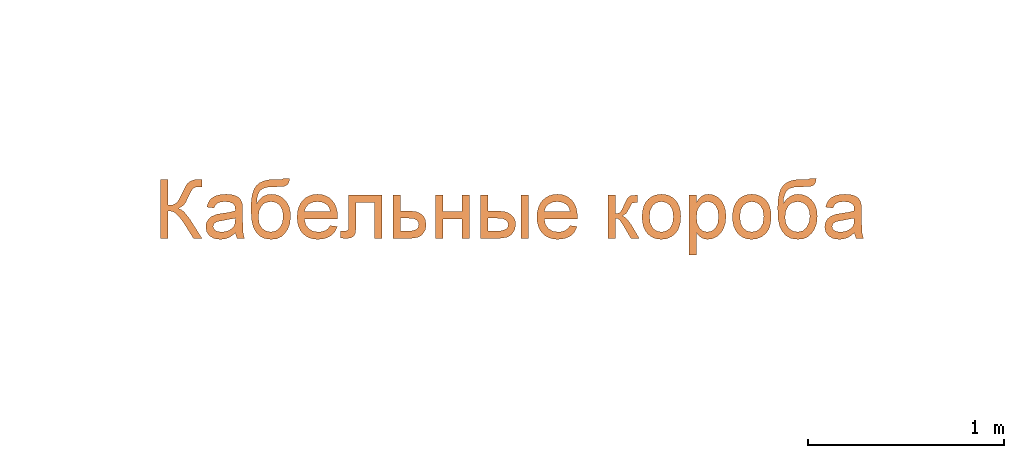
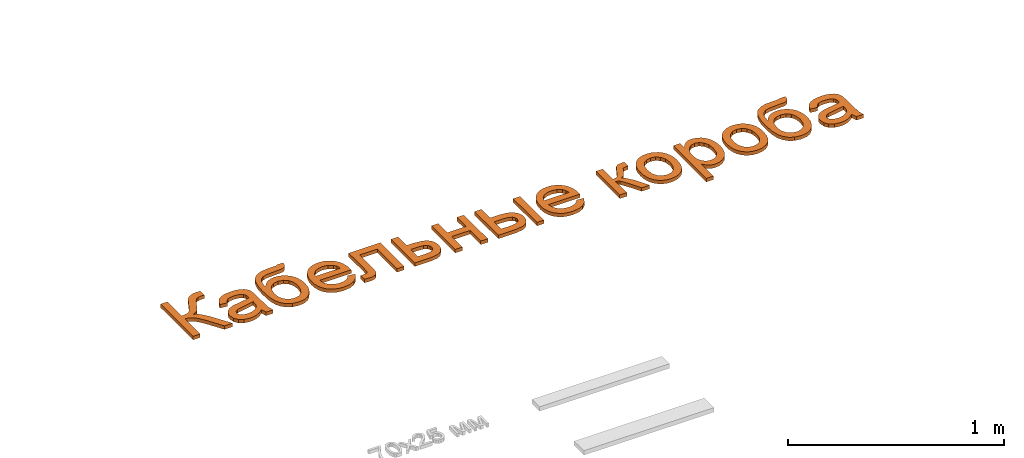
# One storey, part 26 of 87: 1 proxy.
"""IFC2X3 building model written with IfcOpenShell, lengths in millimetres."""

from ifc_helpers import new_model, entity, si_unit, converted_unit, derived_unit, direction, frame, frame_2d, origin, place, context, subcontext, project, spatial, polyline, rectangle, outline, extrude, element, save


model = new_model("IFC2X3")

# Units and contexts
model_context = context("Model", 3, precision=0.01, world=origin(), true_north=direction((6.12303176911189e-17, 1.0)))
body_context = subcontext(model_context, "Body", "Model", "MODEL_VIEW")
ifc_project = project(units=[si_unit("LENGTHUNIT", "METRE", prefix="MILLI"), si_unit("AREAUNIT", "SQUARE_METRE"), si_unit("VOLUMEUNIT", "CUBIC_METRE"), converted_unit("PLANEANGLEUNIT", "DEGREE", entity("IfcRatioMeasure", 0.0174532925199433), si_unit("PLANEANGLEUNIT", "RADIAN"), dimensions=[0, 0, 0, 0, 0, 0, 0]), si_unit("MASSUNIT", "GRAM", prefix="KILO"), derived_unit("MASSDENSITYUNIT", [(si_unit("MASSUNIT", "GRAM", prefix="KILO"), 1), (si_unit("LENGTHUNIT", "METRE"), -3)]), si_unit("TIMEUNIT", "SECOND"), si_unit("FREQUENCYUNIT", "HERTZ"), si_unit("THERMODYNAMICTEMPERATUREUNIT", "DEGREE_CELSIUS"), derived_unit("THERMALTRANSMITTANCEUNIT", [(si_unit("MASSUNIT", "GRAM", prefix="KILO"), 1), (si_unit("THERMODYNAMICTEMPERATUREUNIT", "KELVIN"), -1), (si_unit("TIMEUNIT", "SECOND"), -3)]), derived_unit("VOLUMETRICFLOWRATEUNIT", [(si_unit("LENGTHUNIT", "METRE"), 3), (si_unit("TIMEUNIT", "SECOND"), -1)]), si_unit("ELECTRICCURRENTUNIT", "AMPERE"), si_unit("ELECTRICVOLTAGEUNIT", "VOLT"), si_unit("POWERUNIT", "WATT"), si_unit("FORCEUNIT", "NEWTON", prefix="KILO"), si_unit("ILLUMINANCEUNIT", "LUX"), si_unit("LUMINOUSFLUXUNIT", "LUMEN"), si_unit("LUMINOUSINTENSITYUNIT", "CANDELA"), derived_unit("USERDEFINED", [(si_unit("MASSUNIT", "GRAM", prefix="KILO"), -1), (si_unit("LENGTHUNIT", "METRE"), -2), (si_unit("TIMEUNIT", "SECOND"), 3), (si_unit("LUMINOUSFLUXUNIT", "LUMEN"), 1)]), derived_unit("LINEARVELOCITYUNIT", [(si_unit("LENGTHUNIT", "METRE"), 1), (si_unit("TIMEUNIT", "SECOND"), -1)]), si_unit("PRESSUREUNIT", "PASCAL"), derived_unit("USERDEFINED", [(si_unit("LENGTHUNIT", "METRE"), -2), (si_unit("MASSUNIT", "GRAM", prefix="KILO"), 1), (si_unit("TIMEUNIT", "SECOND"), -2)])], contexts=[model_context])

# Site, building, storey
site_placement = place(None, origin())
site = spatial("IfcSite", under=ifc_project, at=site_placement, Name="Default", CompositionType="ELEMENT")
building_placement = place(site_placement, origin())
building = spatial("IfcBuilding", under=site, at=building_placement, Name="Наименование здания", CompositionType="ELEMENT")
storey_placement = place(building_placement, origin())
storey = spatial("IfcBuildingStorey", under=building, at=storey_placement, Name="Этаж 01", CompositionType="ELEMENT", Elevation=0.0)

# Proxy
proxy_placement = place(storey_placement, origin())
element("IfcBuildingElementProxy", 1, at=proxy_placement, inside=storey, Name="Текст модели:300 мм Arial", ObjectType="Текст модели:300 мм Arial", context=body_context, shape_type="SweptSolid", body=[
    extrude(outline(polyline([(-113.949345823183, -119.34472944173), (187.419584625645, -119.34472944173), (187.419584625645, -81.6736131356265), (46.1528984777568, -81.6736131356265), (49.1603337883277, -59.8306196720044), (58.1826397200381, -42.4206042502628), (75.2799554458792, -25.3968649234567), (102.512420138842, -4.71269974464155), (187.419584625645, 48.8509187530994), (187.419584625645, 92.5552997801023), (86.9142235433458, 29.2060202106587), (51.4136110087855, 0.52961868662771), (40.5886833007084, -13.9603333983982), (34.3806746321, -28.5514530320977), (18.7824780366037, -2.54219597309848), (2.08063545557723, 9.55192461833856), (-52.9729051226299, 36.0118371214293), (-67.2283324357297, 46.4964739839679), (-74.0157552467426, 58.6733680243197), (-76.2782295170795, 75.9270335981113), (-75.8367711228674, 92.5552997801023), (-113.507887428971, 92.5552997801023), (-113.949345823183, 67.8336297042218), (-111.834024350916, 50.221279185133), (-105.488059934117, 34.1724271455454), (-96.0426897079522, 20.6527638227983), (-84.6291508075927, 10.6279794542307), (-9.66399724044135, -26.1142348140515), (7.92995917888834, -39.5511246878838), (15.4071607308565, -56.1701938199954), (17.8995612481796, -81.6736131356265), (-113.949345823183, -81.6736131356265), (-113.949345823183, -119.34472944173)])), frame((13.1640739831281, 6085.27770170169, 0.0), z_axis=(0.0, 0.0, 1.0), x_axis=(0.0, -1.0, 0.0)), (0.0, 0.0, 1.0), 20.0),
    extrude(outline(polyline([(109.632642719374, 21.6400019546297), (139.414275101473, 21.6400019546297), (151.326928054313, 57.3779608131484), (118.904502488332, 60.2746899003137), (56.2118396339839, 79.1557794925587), (11.748793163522, 93.9767949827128), (-20.1035933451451, 102.655348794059), (-34.9333339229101, 102.809492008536), (-48.012240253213, 99.7818866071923), (-60.1401120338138, 92.6854820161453), (-72.1167489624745, 80.6332276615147), (-83.2645025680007, 63.0696262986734), (-92.9057243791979, 39.4391806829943), (-99.5047989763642, 13.650730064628), (-101.433043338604, -10.107683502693), (-98.7108160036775, -30.9664596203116), (-91.3584755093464, -48.0559978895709), (-79.0880939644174, -62.4320339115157), (-61.6117434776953, -75.1503032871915), (-45.2318456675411, -40.9014260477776), (-57.7232627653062, -28.8462633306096), (-63.8802662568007, -15.528871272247), (-64.0809432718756, 1.05752027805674), (-58.7033809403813, 22.9196814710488), (-48.4543113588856, 45.0581371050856), (-35.2038116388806, 58.9833769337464), (-22.3081321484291, 62.8863994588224), (-5.53851375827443, 60.0303874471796), (2.3489654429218, 57.1685587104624), (0.499246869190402, 29.5158477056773), (-6.02711866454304, -8.90943813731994), (-10.9597015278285, -41.6226999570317), (-7.57436753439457, -70.555090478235), (-1.92341912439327, -83.6165466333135), (6.95581170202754, -95.369239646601), (18.6997796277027, -104.984286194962), (32.944939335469, -111.632802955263), (58.4832707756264, -115.114112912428), (82.3289352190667, -107.968266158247), (102.393728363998, -90.1778125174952), (116.589445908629, -61.7253018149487), (121.426052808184, -41.3405887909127), (122.301469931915, -21.0896604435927), (118.58167424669, -0.315226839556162), (109.632642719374, 21.6400019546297)]), holes=[polyline([(38.1567250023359, 45.4653078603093), (48.2080259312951, 41.8822052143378), (63.7910324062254, 35.1173539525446), (73.9644845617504, 27.0146559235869), (82.023557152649, 13.7030805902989), (86.8892476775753, -3.1974141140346), (87.6483302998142, -22.296630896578), (83.3875791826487, -42.2043724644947), (75.4157574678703, -59.6632727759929), (65.227763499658, -70.8575601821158), (53.8589743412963, -75.9384695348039), (42.3447670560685, -75.0572356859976), (30.2227120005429, -65.5876072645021), (25.4413639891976, -48.5213358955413), (29.8969753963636, -15.8429744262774), (38.1567250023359, 45.4653078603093)])]), frame((220.041003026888, 6023.27494189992, 0.0), z_axis=(0.0, 0.0, 1.0), x_axis=(0.316227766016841, -0.948683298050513, 0.0)), (0.0, 0.0, 1.0), 20.0),
    extrude(outline(polyline([(-113.288756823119, 71.1787230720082), (-141.510608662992, 54.1482952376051), (-129.203599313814, 40.6605330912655), (-118.008509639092, 33.9996047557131), (-107.205239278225, 32.5805834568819), (-96.0736878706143, 34.8185424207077), (-21.4409333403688, 74.5705532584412), (2.32590846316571, 81.3073745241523), (20.3664318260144, 79.0028904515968), (37.1057783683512, 69.8118357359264), (53.2325508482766, 53.9993604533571), (69.4353520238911, 31.830614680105), (45.5941107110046, 42.0210394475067), (22.8699481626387, 45.8389018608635), (1.23761199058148, 43.2904471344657), (-19.3281501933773, 34.3819204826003), (-35.9150659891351, 22.1463238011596), (-48.9496088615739, 7.6018985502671), (-58.4317788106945, -9.25135527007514), (-64.3615758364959, -28.413437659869), (-66.3162260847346, -48.9739728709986), (-63.8729557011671, -70.0225851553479), (-57.0317646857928, -91.5592745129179), (-45.7926530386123, -113.584040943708), (-24.2287426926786, -142.572017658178), (-0.364421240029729, -161.879097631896), (24.2730848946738, -173.211038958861), (48.1565492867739, -178.273599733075), (72.8418448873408, -175.461895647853), (99.8848446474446, -163.171042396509), (126.701387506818, -141.800326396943), (141.636002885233, -117.223100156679), (147.228456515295, -90.1947630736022), (146.018514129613, -61.470714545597), (133.67430502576, -24.5666571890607), (105.863958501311, 27.0017063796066), (83.8410588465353, 60.0389917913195), (62.401204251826, 85.1944773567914), (41.5443947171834, 102.468163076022), (21.2706302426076, 111.860048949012), (0.612785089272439, 114.714688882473), (-21.3962664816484, 112.376636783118), (-44.7565244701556, 104.845892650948), (-69.467988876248, 92.1224564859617), (-105.8124207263, 71.1787230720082), (-113.288756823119, 71.1787230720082)]), holes=[polyline([(-14.1473376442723, -93.1127715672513), (-25.9661341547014, -65.6237820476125), (-27.7418114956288, -38.9705651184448), (-18.9448841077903, -15.4546180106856), (0.95413356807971, 2.62256204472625), (27.3354121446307, 12.1294073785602), (40.3740279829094, 11.9814229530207), (53.3112948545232, 8.56583379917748), (77.3834733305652, -6.86690530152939), (98.0536392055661, -32.9675565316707), (110.610185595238, -62.782752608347), (110.797677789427, -90.1150687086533), (100.457096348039, -113.209056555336), (81.4294218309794, -130.30926787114), (56.9314826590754, -138.593680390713), (31.1880305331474, -134.632042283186), (6.67108418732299, -119.209892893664), (-14.1473376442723, -93.1127715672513)])]), frame((459.880770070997, 6084.4612607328, 0.0), z_axis=(0.0, 0.0, -1.0), x_axis=(-0.856187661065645, -0.516664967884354, 0.0)), (0.0, 0.0, -1.0), 20.0),
    extrude(outline(polyline([(-9.29802617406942, -75.8566611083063), (-26.8306332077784, -108.704820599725), (3.56775144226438, -113.955407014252), (32.8230438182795, -108.674298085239), (59.9984289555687, -92.7832033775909), (84.1570918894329, -66.203832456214), (96.1620849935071, -46.0614577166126), (103.651308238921, -25.8387527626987), (106.624761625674, -5.53571759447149), (105.082445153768, 14.8476477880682), (99.0119671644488, 34.6660777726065), (88.4009359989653, 53.2743067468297), (73.2493516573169, 70.672334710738), (53.5572141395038, 86.8601616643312), (31.0596964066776, 100.584097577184), (8.9921363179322, 109.526058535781), (-12.6454661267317, 113.686044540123), (-33.8531109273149, 113.064055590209), (-53.9060969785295, 108.053690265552), (-72.0797231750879, 99.0485471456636), (-88.37398951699, 86.0486262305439), (-102.788896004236, 69.0539275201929), (-113.658425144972, 50.4204956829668), (-120.210650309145, 31.2442368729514), (-122.445571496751, 11.5251510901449), (-120.363188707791, -8.73676166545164), (-113.816971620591, -28.7151265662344), (-102.660389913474, -47.5835687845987), (-86.8934435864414, -65.3420883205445), (-66.5161326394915, -81.9906851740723), (-58.1074951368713, -87.6861196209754), (39.8593178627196, 50.3890575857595), (59.0835694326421, 28.7538147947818), (67.2251442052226, 4.40423779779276), (64.9709656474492, -20.8014716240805), (53.0079572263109, -45.0051116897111), (39.8008874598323, -60.2180076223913), (25.2142222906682, -70.5728170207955), (8.94792873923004, -75.8566611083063), (-9.29802617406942, -75.8566611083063)]), holes=[polyline([(9.13594075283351, 72.1878443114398), (-67.1598127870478, -35.3439755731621), (-80.4432259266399, -19.6717769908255), (-86.2748434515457, -3.28747293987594), (-84.3671677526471, 22.2881318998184), (-71.9803673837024, 47.3751539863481), (-54.413594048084, 66.0466161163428), (-33.6450905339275, 77.0560555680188), (-11.7651484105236, 79.4282168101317), (9.13594075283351, 72.1878443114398)])]), frame((692.566854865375, 6000.0946459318, 0.0), z_axis=(0.0, 0.0, -1.0), x_axis=(-0.578660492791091, -0.815568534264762, 0.0)), (0.0, 0.0, -1.0), 20.0),
    extrude(outline(polyline([(-155.101092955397, 35.5430211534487), (-155.101092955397, -133.977002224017), (65.9959861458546, -133.977002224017), (65.9959861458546, -96.3058859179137), (-117.429976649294, -96.3058859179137), (-117.429976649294, -2.12809515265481), (-11.8478440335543, -2.12809515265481), (36.8597321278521, 0.410290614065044), (47.8869949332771, 5.16516540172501), (57.4243356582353, 14.3530182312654), (64.0186204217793, 28.2957458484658), (66.2167153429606, 47.3152449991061), (64.3037289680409, 77.9230269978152), (28.5455990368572, 77.9230269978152), (28.5455990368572, 61.0740316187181), (26.2279424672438, 44.0410952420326), (18.8703025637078, 37.235278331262), (-13.9815596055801, 35.5430211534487), (-155.101092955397, 35.5430211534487)])), frame((889.975831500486, 5964.074832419, 0.0), z_axis=(0.0, 0.0, -1.0), x_axis=(0.0, -1.0, 0.0)), (0.0, 0.0, -1.0), 20.0),
    extrude(outline(polyline([(-128.949105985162, -106.932805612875), (92.3687023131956, -106.932805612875), (92.3687023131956, -19.4504671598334), (87.2091573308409, 17.6596291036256), (80.7597261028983, 31.8207866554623), (71.7305223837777, 43.0526838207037), (48.9862180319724, 57.7035842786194), (22.0296648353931, 62.5872177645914), (-7.57563872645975, 56.8482586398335), (-19.6950512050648, 49.6745597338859), (-30.0256374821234, 39.6313812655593), (-38.2822890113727, 26.9302553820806), (-44.1798972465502, 11.7827142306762), (-48.8979838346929, -25.8516138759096), (-48.8979838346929, -69.261689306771), (-128.949105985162, -69.261689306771), (-128.949105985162, -106.932805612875)]), holes=[polyline([(54.6975860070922, -69.261689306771), (-11.2268675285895, -69.261689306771), (-11.2268675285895, -29.6040102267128), (-8.688481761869, -1.26789954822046), (-1.07332446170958, 14.8729229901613), (9.79758849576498, 22.405306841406), (22.1032412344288, 24.9161014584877), (36.6621711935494, 21.5223900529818), (46.7881231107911, 11.3412558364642), (52.7202202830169, -6.80452357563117), (54.6975860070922, -34.0921705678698), (54.6975860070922, -69.261689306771)])]), frame((1187.39231379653, 5990.22681938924, 0.0), z_axis=(0.0, 0.0, 1.0), x_axis=(0.0, -1.0, 0.0)), (0.0, 0.0, 1.0), 20.0),
    extrude(outline(polyline([(-108.304459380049, -87.1144564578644), (113.013348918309, -87.1144564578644), (113.013348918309, -49.4433401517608), (14.1266686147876, -49.4433401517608), (14.1266686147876, 49.443340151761), (113.013348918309, 49.443340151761), (113.013348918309, 87.1144564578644), (-108.304459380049, 87.1144564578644), (-108.304459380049, 49.443340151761), (-23.5444476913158, 49.443340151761), (-23.5444476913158, -49.4433401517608), (-108.304459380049, -49.4433401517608), (-108.304459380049, -87.1144564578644)])), frame((1384.18288340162, 6010.87146599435, 0.0), z_axis=(0.0, 0.0, 1.0), x_axis=(0.0, -1.0, 0.0)), (0.0, 0.0, 1.0), 20.0),
    extrude(outline(polyline([(-129.32161186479, -116.217168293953), (91.9961964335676, -116.217168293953), (91.9961964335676, -23.8787875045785), (86.8366514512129, 15.2730538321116), (80.3872202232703, 30.2205591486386), (71.3580165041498, 42.0824542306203), (48.6137121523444, 57.561089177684), (21.6571589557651, 62.7206341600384), (5.96009407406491, 61.1824275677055), (-7.94814460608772, 56.5678077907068), (-20.0675570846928, 48.8767748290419), (-30.3981433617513, 38.1093286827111), (-38.6547948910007, 24.4999941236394), (-44.5524031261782, 8.28329592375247), (-49.2704897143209, -31.9721913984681), (-49.2704897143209, -78.5460519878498), (-129.32161186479, -78.5460519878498), (-129.32161186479, -116.217168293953)]), holes=[polyline([(54.3250801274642, -78.5460519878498), (-11.5993734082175, -78.5460519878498), (-11.5993734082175, -34.9152473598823), (-9.06098764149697, -3.78323351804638), (-1.44583034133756, 13.9762697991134), (9.42508261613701, 22.2812058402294), (21.7307353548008, 25.0495178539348), (36.2896653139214, 21.3155156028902), (46.4156172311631, 10.1135088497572), (52.3477144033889, -9.84408938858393), (54.3250801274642, -39.8448660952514), (54.3250801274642, -78.5460519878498)])]), frame((1644.02118261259, 5989.85431350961, 0.0), z_axis=(0.0, 0.0, 1.0), x_axis=(0.0, -1.0, 0.0)), (0.0, 0.0, 1.0), 20.0),
    extrude(outline(polyline([(-9.29802617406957, -75.8566611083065), (-26.8306332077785, -108.704820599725), (3.56775144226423, -113.955407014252), (32.8230438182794, -108.674298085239), (59.9984289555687, -92.7832033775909), (84.1570918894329, -66.203832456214), (96.1620849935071, -46.0614577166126), (103.651308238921, -25.8387527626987), (106.624761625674, -5.53571759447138), (105.082445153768, 14.8476477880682), (99.0119671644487, 34.6660777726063), (88.4009359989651, 53.2743067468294), (73.2493516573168, 70.6723347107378), (53.5572141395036, 86.860161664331), (31.0596964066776, 100.584097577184), (8.99213631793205, 109.526058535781), (-12.645466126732, 113.686044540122), (-33.853110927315, 113.064055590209), (-53.9060969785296, 108.053690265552), (-72.0797231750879, 99.0485471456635), (-88.37398951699, 86.0486262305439), (-102.788896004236, 69.0539275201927), (-113.658425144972, 50.4204956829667), (-120.210650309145, 31.2442368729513), (-122.445571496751, 11.5251510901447), (-120.363188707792, -8.73676166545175), (-113.816971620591, -28.7151265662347), (-102.660389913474, -47.583568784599), (-86.8934435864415, -65.3420883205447), (-66.5161326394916, -81.9906851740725), (-58.1074951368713, -87.6861196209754), (39.8593178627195, 50.3890575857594), (59.0835694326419, 28.7538147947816), (67.2251442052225, 4.40423779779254), (64.9709656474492, -20.8014716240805), (53.0079572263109, -45.0051116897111), (39.8008874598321, -60.2180076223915), (25.214222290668, -70.5728170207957), (8.94792873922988, -75.8566611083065), (-9.29802617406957, -75.8566611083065)]), holes=[polyline([(9.13594075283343, 72.1878443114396), (-67.1598127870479, -35.3439755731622), (-80.4432259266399, -19.6717769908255), (-86.2748434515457, -3.28747293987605), (-84.3671677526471, 22.2881318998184), (-71.9803673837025, 47.375153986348), (-54.4135940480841, 66.0466161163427), (-33.6450905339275, 77.0560555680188), (-11.7651484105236, 79.4282168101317), (9.13594075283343, 72.1878443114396)])]), frame((1916.87813481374, 6000.0946459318, 0.0), z_axis=(0.0, 0.0, -1.0), x_axis=(-0.578660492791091, -0.815568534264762, 0.0)), (0.0, 0.0, -1.0), 20.0),
    extrude(outline(polyline([(-92.1976330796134, -85.1594264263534), (129.120175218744, -85.1594264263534), (129.120175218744, -47.4883101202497), (25.5246053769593, -47.4883101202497), (27.2628478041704, -36.5438207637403), (32.4775750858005, -27.2548003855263), (61.2091589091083, -7.38917264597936), (129.120175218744, 32.121353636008), (129.120175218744, 74.9428178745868), (59.7376309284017, 34.6229512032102), (28.8539374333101, 11.2992327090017), (19.4959391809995, -0.528173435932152), (14.1938399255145, -12.4659441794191), (1.06045269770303, 8.83442334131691), (-25.758144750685, 24.0279497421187), (-50.5533912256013, 36.9773959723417), (-54.52651677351, 55.3714957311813), (-54.305787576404, 65.5250387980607), (-92.1976330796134, 65.5250387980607), (-92.1976330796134, 58.3145516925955), (-89.3281535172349, 30.7601902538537), (-78.2549054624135, 15.60345205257), (-44.2258209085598, -1.57663712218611), (-18.0326228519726, -13.4776196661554), (-4.78887102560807, -22.2516052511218), (0.287900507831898, -32.1660250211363), (1.9801576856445, -47.4883101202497), (-92.1976330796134, -47.4883101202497), (-92.1976330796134, -85.1594264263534)])), frame((2262.79019702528, 6026.97829229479, 0.0), z_axis=(0.0, 0.0, 1.0), x_axis=(0.0, -1.0, 0.0)), (0.0, 0.0, 1.0), 20.0),
    extrude(outline(polyline([(-0.22937732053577, -95.3874471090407), (26.1479590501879, -95.3874471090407), (49.4793057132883, -91.7658632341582), (69.7646626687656, -84.5226954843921), (87.0040299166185, -73.6579438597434), (100.935147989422, -59.8043433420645), (111.295757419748, -43.5946289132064), (118.085858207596, -25.0288005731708), (121.305450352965, -4.10685832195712), (119.659258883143, 22.6445950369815), (111.137222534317, 47.6856680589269), (96.2709912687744, 69.2676051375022), (75.592215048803, 85.6416506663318), (47.2756049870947, 96.6589942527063), (9.49587219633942, 102.170825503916), (-15.444044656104, 102.059101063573), (-37.7671193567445, 98.3167797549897), (-57.4733519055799, 90.9438615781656), (-74.5627423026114, 79.9403465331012), (-88.5474044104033, 66.0072735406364), (-98.9394520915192, 49.8456815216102), (-105.738885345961, 31.4555704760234), (-108.945704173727, 10.8369404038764), (-108.636916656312, -8.04907106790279), (-105.175445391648, -25.6466417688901), (-98.5612903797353, -41.9557716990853), (-88.7944516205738, -56.9764608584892), (-72.9824052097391, -72.2927248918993), (-52.9508773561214, -83.7999772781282), (-28.6998680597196, -91.4982180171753), (-0.22937732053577, -95.3874471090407)]), holes=[polyline([(2.1370046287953, -57.7906566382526), (-31.5841834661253, -51.2335049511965), (-54.9205080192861, -36.6132063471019), (-68.1007471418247, -16.0346845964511), (-71.3536789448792, 8.39713653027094), (-64.9677103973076, 31.954529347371), (-49.1835960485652, 50.6439854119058), (-24.4231993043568, 62.2256502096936), (8.89161642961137, 64.4596692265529), (43.3745569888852, 57.8530781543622), (67.0871689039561, 43.2083576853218), (80.4074567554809, 22.6576120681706), (83.7134251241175, -1.66705444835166), (77.3113738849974, -25.4722462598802), (61.5266638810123, -44.1708800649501), (36.4412293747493, -55.6485016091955), (2.1370046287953, -57.7906566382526)])]), frame((2447.06171906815, 6014.46597965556, 0.0), z_axis=(0.0, 0.0, 1.0), x_axis=(0.0647659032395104, -0.997900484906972, 0.0)), (0.0, 0.0, 1.0), 20.0),
    extrude(outline(polyline([(-99.8542099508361, -188.324679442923), (-62.1830936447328, -188.324679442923), (-62.1830936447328, -74.1341081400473), (-51.5421069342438, -87.6445744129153), (-38.3075521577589, -98.5982608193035), (-22.8473113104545, -105.854733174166), (-5.52926638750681, -108.273557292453), (18.888901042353, -104.659116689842), (42.1114519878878, -93.8157948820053), (62.0506561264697, -76.1942473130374), (76.6187831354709, -52.2451294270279), (85.5307244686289, -23.4307721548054), (88.5013715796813, 8.78649357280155), (85.871015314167, 39.0815758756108), (77.979946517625, 66.8382724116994), (64.9201356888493, 90.3459319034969), (46.783553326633, 107.893903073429), (24.508298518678, 118.81999833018), (-0.967529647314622, 122.462030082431), (-20.0973933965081, 119.859264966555), (-36.1370483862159, 112.050969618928), (-49.8958350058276, 99.0371440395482), (-62.1830936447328, 80.8177882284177), (-62.1830936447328, 117.753140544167), (-99.8542099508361, 117.753140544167), (-99.8542099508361, -188.324679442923)]), holes=[polyline([(-62.1830936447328, 5.32840281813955), (-57.832889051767, 39.4954431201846), (-44.7822752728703, 64.4470394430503), (-26.0846728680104, 79.7049451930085), (-4.79350239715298, 84.7909137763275), (16.4148946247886, 80.0084478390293), (34.4227182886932, 65.6610500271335), (46.728371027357, 41.7119321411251), (50.8302552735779, 8.12430598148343), (46.6272034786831, -26.9164540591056), (34.0180480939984, -51.399000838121), (15.5227807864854, -65.8015809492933), (-6.3386067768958, -70.6024409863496), (-27.8505064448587, -65.9671278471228), (-45.8859212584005, -52.0611884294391), (-58.1088005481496, -28.4431643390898), (-62.1830936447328, 5.32840281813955)])]), frame((2691.8672599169, 6001.42278483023, 0.0)), (0.0, 0.0, 1.0), 20.0),
    extrude(outline(polyline([(-0.229377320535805, -95.3874471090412), (26.1479590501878, -95.3874471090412), (49.4793057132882, -91.7658632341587), (69.7646626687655, -84.5226954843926), (87.0040299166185, -73.6579438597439), (100.935147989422, -59.804343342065), (111.295757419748, -43.5946289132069), (118.085858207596, -25.0288005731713), (121.305450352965, -4.10685832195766), (119.659258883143, 22.644595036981), (111.137222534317, 47.6856680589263), (96.2709912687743, 69.2676051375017), (75.592215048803, 85.6416506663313), (47.2756049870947, 96.6589942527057), (9.49587219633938, 102.170825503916), (-15.444044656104, 102.059101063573), (-37.7671193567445, 98.3167797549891), (-57.47335190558, 90.9438615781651), (-74.5627423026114, 79.9403465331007), (-88.5474044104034, 66.0072735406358), (-98.9394520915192, 49.8456815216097), (-105.738885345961, 31.4555704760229), (-108.945704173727, 10.8369404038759), (-108.636916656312, -8.04907106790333), (-105.175445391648, -25.6466417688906), (-98.5612903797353, -41.9557716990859), (-88.7944516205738, -56.9764608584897), (-72.9824052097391, -72.2927248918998), (-52.9508773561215, -83.7999772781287), (-28.6998680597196, -91.4982180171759), (-0.229377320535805, -95.3874471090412)]), holes=[polyline([(2.13700462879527, -57.7906566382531), (-31.5841834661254, -51.2335049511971), (-54.9205080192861, -36.6132063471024), (-68.1007471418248, -16.0346845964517), (-71.3536789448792, 8.3971365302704), (-64.9677103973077, 31.9545293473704), (-49.1835960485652, 50.6439854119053), (-24.4231993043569, 62.225650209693), (8.89161642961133, 64.4596692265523), (43.3745569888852, 57.8530781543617), (67.0871689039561, 43.2083576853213), (80.4074567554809, 22.6576120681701), (83.7134251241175, -1.6670544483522), (77.3113738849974, -25.4722462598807), (61.5266638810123, -44.1708800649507), (36.4412293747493, -55.6485016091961), (2.13700462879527, -57.7906566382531)])]), frame((2908.53289381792, 6014.46597965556, 0.0), z_axis=(0.0, 0.0, 1.0), x_axis=(0.0647659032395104, -0.997900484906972, 0.0)), (0.0, 0.0, 1.0), 20.0),
    extrude(outline(polyline([(-113.288756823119, 71.1787230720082), (-141.510608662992, 54.1482952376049), (-129.203599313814, 40.6605330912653), (-118.008509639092, 33.9996047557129), (-107.205239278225, 32.5805834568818), (-96.0736878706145, 34.8185424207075), (-21.4409333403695, 74.5705532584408), (2.32590846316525, 81.307374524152), (20.3664318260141, 79.0028904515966), (37.1057783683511, 69.8118357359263), (53.2325508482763, 53.9993604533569), (69.4353520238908, 31.8306146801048), (45.5941107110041, 42.0210394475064), (22.869948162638, 45.8389018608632), (1.23761199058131, 43.2904471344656), (-19.3281501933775, 34.3819204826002), (-35.9150659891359, 22.1463238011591), (-48.9496088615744, 7.60189855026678), (-58.4317788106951, -9.25135527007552), (-64.3615758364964, -28.4134376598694), (-66.3162260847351, -48.9739728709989), (-63.8729557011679, -70.0225851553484), (-57.0317646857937, -91.5592745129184), (-45.7926530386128, -113.584040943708), (-24.2287426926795, -142.572017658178), (-0.364421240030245, -161.879097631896), (24.2730848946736, -173.211038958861), (48.1565492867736, -178.273599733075), (72.8418448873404, -175.461895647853), (99.8848446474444, -163.171042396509), (126.701387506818, -141.800326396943), (141.636002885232, -117.223100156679), (147.228456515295, -90.1947630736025), (146.018514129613, -61.4707145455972), (133.67430502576, -24.5666571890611), (105.863958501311, 27.0017063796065), (83.8410588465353, 60.0389917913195), (62.4012042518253, 85.194477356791), (41.5443947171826, 102.468163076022), (21.2706302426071, 111.860048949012), (0.61278508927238, 114.714688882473), (-21.3962664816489, 112.376636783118), (-44.7565244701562, 104.845892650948), (-69.4679888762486, 92.1224564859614), (-105.8124207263, 71.1787230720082), (-113.288756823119, 71.1787230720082)]), holes=[polyline([(-14.1473376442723, -93.1127715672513), (-25.9661341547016, -65.6237820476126), (-27.7418114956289, -38.9705651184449), (-18.9448841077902, -15.4546180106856), (0.954133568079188, 2.62256204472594), (27.3354121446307, 12.1294073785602), (40.3740279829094, 11.9814229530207), (53.3112948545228, 8.56583379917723), (77.3834733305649, -6.86690530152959), (98.0536392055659, -32.9675565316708), (110.610185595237, -62.7827526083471), (110.797677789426, -90.1150687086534), (100.457096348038, -113.209056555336), (81.4294218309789, -130.309267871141), (56.9314826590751, -138.593680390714), (31.1880305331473, -134.632042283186), (6.67108418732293, -119.209892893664), (-14.1473376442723, -93.1127715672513)])]), frame((3148.65669641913, 6084.4612607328, 0.0), z_axis=(0.0, 0.0, -1.0), x_axis=(-0.856187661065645, -0.516664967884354, 0.0)), (0.0, 0.0, -1.0), 20.0),
    extrude(outline(polyline([(109.632642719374, 21.6400019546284), (139.414275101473, 21.6400019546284), (151.326928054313, 57.3779608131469), (118.904502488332, 60.2746899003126), (56.2118396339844, 79.1557794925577), (11.7487931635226, 93.9767949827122), (-20.1035933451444, 102.655348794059), (-34.9333339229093, 102.809492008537), (-48.0122402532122, 99.7818866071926), (-60.1401120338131, 92.6854820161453), (-72.116748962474, 80.6332276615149), (-83.2645025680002, 63.069626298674), (-92.9057243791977, 39.4391806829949), (-99.5047989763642, 13.6507300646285), (-101.433043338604, -10.1076835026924), (-98.7108160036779, -30.966459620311), (-91.358475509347, -48.0559978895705), (-79.088093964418, -62.4320339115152), (-61.611743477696, -75.1503032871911), (-45.2318456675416, -40.9014260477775), (-57.7232627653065, -28.8462633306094), (-63.8802662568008, -15.5288712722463), (-64.0809432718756, 1.0575202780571), (-58.7033809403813, 22.9196814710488), (-48.4543113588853, 45.0581371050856), (-35.2038116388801, 58.9833769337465), (-22.3081321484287, 62.8863994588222), (-5.53851375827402, 60.0303874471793), (2.34896544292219, 57.1685587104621), (0.499246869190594, 29.5158477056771), (-6.0271186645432, -8.90943813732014), (-10.959701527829, -41.622699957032), (-7.57436753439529, -70.5550904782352), (-1.92341912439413, -83.6165466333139), (6.95581170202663, -95.3692396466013), (18.6997796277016, -104.984286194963), (32.9449393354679, -111.632802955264), (58.4832707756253, -115.114112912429), (82.3289352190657, -107.968266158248), (102.393728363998, -90.1778125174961), (116.589445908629, -61.72530181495), (121.426052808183, -41.340588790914), (122.301469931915, -21.0896604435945), (118.581674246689, -0.315226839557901), (109.632642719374, 21.6400019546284)]), holes=[polyline([(38.1567250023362, 45.4653078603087), (48.2080259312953, 41.8822052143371), (63.7910324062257, 35.1173539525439), (73.9644845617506, 27.0146559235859), (82.0235571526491, 13.7030805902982), (86.8892476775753, -3.19741411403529), (87.648330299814, -22.2966308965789), (83.3875791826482, -42.2043724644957), (75.4157574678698, -59.6632727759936), (65.2277634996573, -70.8575601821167), (53.8589743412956, -75.9384695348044), (42.3447670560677, -75.0572356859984), (30.2227120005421, -65.5876072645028), (25.441363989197, -48.5213358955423), (29.8969753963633, -15.842974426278), (38.1567250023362, 45.4653078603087)])]), frame((3379.70588320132, 6023.27494189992, 0.0), z_axis=(0.0, 0.0, 1.0), x_axis=(0.316227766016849, -0.94868329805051, 0.0)), (0.0, 0.0, 1.0), 20.0),
    extrude(rectangle(XDim=221.317808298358, YDim=37.6711163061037, at=frame_2d((5.40012479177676e-13, 1.35003119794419e-13), x_axis=(1.0, 0.0))), frame((1753.83071215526, 6008.51702122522, 0.0), z_axis=(0.0, 0.0, 1.0), x_axis=(0.0, -1.0, 0.0)), (0.0, 0.0, 1.0), 20.0),
])

save(model, "model.ifc")
